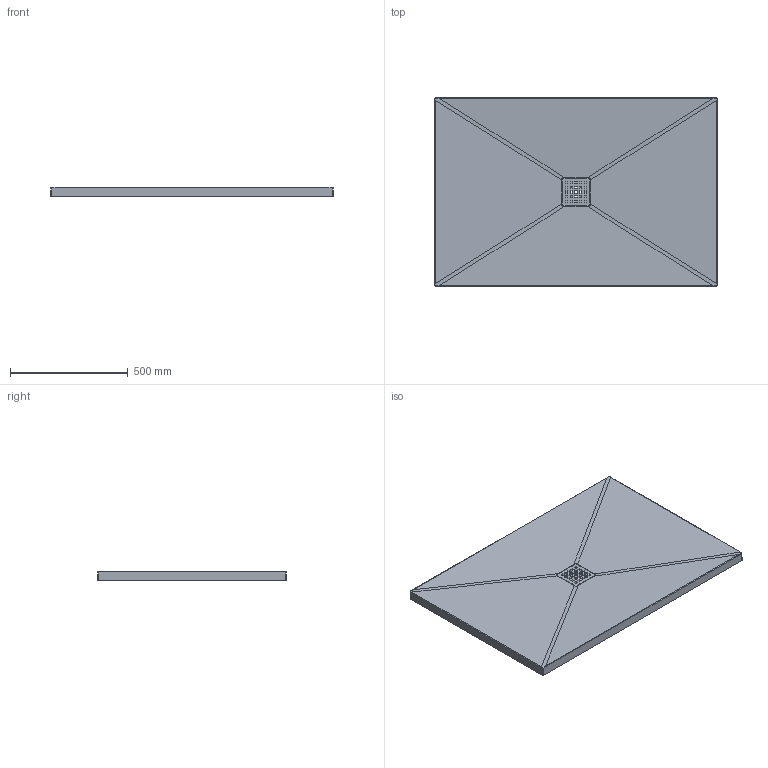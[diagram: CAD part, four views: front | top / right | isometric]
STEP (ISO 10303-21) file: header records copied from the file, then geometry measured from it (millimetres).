
FILE_DESCRIPTION (( 'STEP AP214' ), '1' );
FILE_NAME ('TRENT 120x80.STEP', '2024-05-13T11:59:22', ( '' ), ( '' ), 'SwSTEP 2.0', 'SolidWorks 2021', '' );
FILE_SCHEMA (( 'AUTOMOTIVE_DESIGN' ));
Length unit declared in the file: millimetre
Products named in the file (1): TRENT 120x80
Bounding box: 1200 x 800 x 40.03 mm (x, y, z)
Volume: 13972206.6 mm3; surface area: 2451244.3 mm2
Topology: 3 solids, 3 shells, 833 faces, 1993 edges, 1151 vertices
Faces by surface type: cylinder 365, bspline 291, plane 177
Full cylindrical faces by diameter (mm): 66 x1
Entity records: 38338 total; most frequent: CARTESIAN_POINT 21480, ORIENTED_EDGE 3974, DIRECTION 2508, EDGE_CURVE 1987, VERTEX_POINT 1151, LINE 928, VECTOR 928, EDGE_LOOP 902
